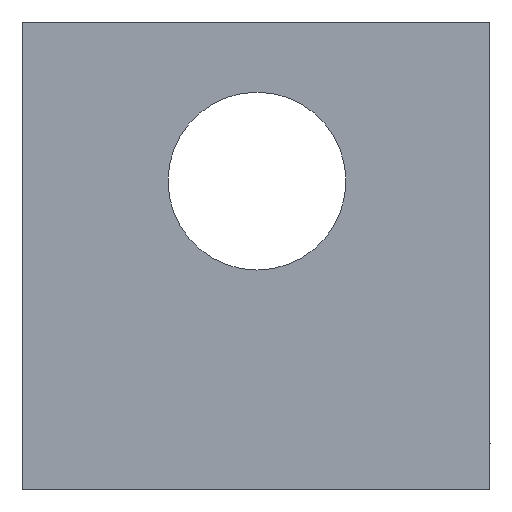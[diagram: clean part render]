
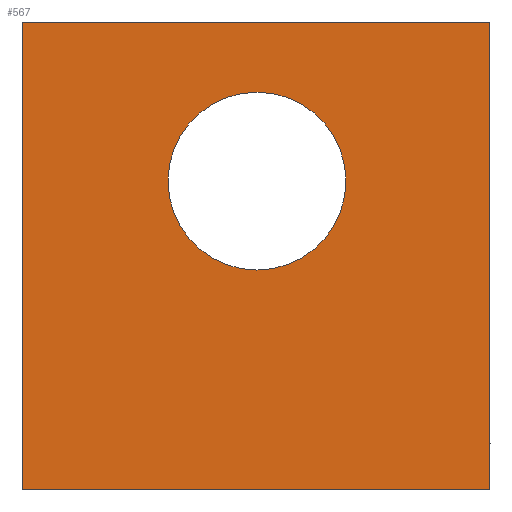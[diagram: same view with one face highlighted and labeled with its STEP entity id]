
A CAD part, front view. The second image highlights one B-rep face of the part: STEP entity #567.
In plain terms, the highlighted planar face has unit normal (0, -1, 0).
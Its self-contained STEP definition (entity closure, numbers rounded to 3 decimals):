
#265=CIRCLE('',#543,9.5);
#271=ORIENTED_EDGE('',*,*,#373,.T.);
#272=ORIENTED_EDGE('',*,*,#374,.F.);
#273=ORIENTED_EDGE('',*,*,#375,.F.);
#274=ORIENTED_EDGE('',*,*,#376,.T.);
#275=ORIENTED_EDGE('',*,*,#377,.T.);
#319=VECTOR('',#439,1.);
#320=VECTOR('',#440,1.);
#321=VECTOR('',#441,1.);
#322=VECTOR('',#442,1.);
#337=LINE('',#492,#319);
#338=LINE('',#494,#320);
#339=LINE('',#496,#321);
#340=LINE('',#497,#322);
#355=VERTEX_POINT('',#490);
#356=VERTEX_POINT('',#491);
#357=VERTEX_POINT('',#493);
#358=VERTEX_POINT('',#495);
#359=VERTEX_POINT('',#498);
#373=EDGE_CURVE('',#355,#356,#337,.T.);
#374=EDGE_CURVE('',#357,#356,#338,.T.);
#375=EDGE_CURVE('',#358,#357,#339,.T.);
#376=EDGE_CURVE('',#358,#355,#340,.T.);
#377=EDGE_CURVE('',#359,#359,#265,.T.);
#397=EDGE_LOOP('',(#271,#272,#273,#274));
#398=EDGE_LOOP('',(#275));
#417=FACE_BOUND('',#397,.T.);
#418=FACE_BOUND('',#398,.T.);
#437=DIRECTION('',(0.,-1.,0.));
#438=DIRECTION('',(-1.,0.,0.));
#439=DIRECTION('',(-50.,0.,0.));
#440=DIRECTION('',(0.,0.,50.));
#441=DIRECTION('',(-50.,0.,0.));
#442=DIRECTION('',(0.,0.,50.));
#443=DIRECTION('',(0.,1.,0.));
#444=DIRECTION('',(0.,0.,9.5));
#489=CARTESIAN_POINT('',(50.,-150.,50.));
#490=CARTESIAN_POINT('',(50.,-150.,50.));
#491=CARTESIAN_POINT('',(0.,-150.,50.));
#492=CARTESIAN_POINT('',(50.,-150.,50.));
#493=CARTESIAN_POINT('',(0.,-150.,0.));
#494=CARTESIAN_POINT('',(0.,-150.,0.));
#495=CARTESIAN_POINT('',(50.,-150.,0.));
#496=CARTESIAN_POINT('',(50.,-150.,0.));
#497=CARTESIAN_POINT('',(50.,-150.,0.));
#498=CARTESIAN_POINT('',(25.105,-150.,42.5));
#499=CARTESIAN_POINT('',(25.105,-150.,33.));
#542=AXIS2_PLACEMENT_3D('',#489,#437,#438);
#543=AXIS2_PLACEMENT_3D('',#499,#443,#444);
#559=PLANE('',#542);
#567=ADVANCED_FACE('',(#417,#418),#559,.T.);
